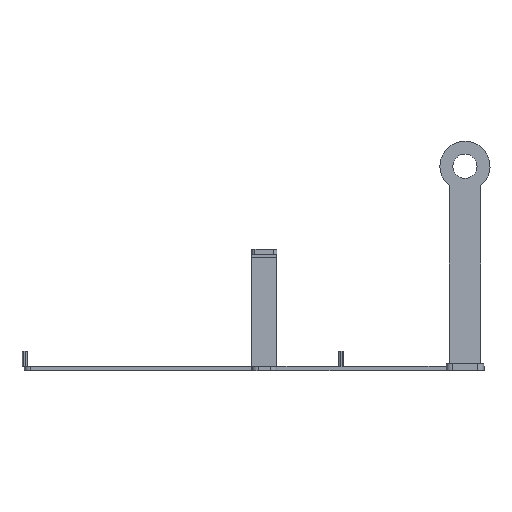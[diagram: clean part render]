
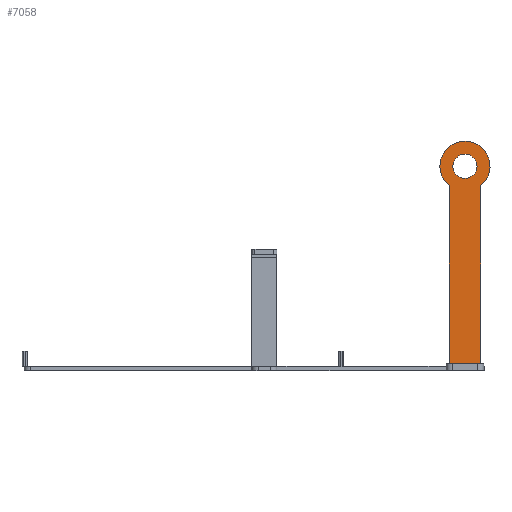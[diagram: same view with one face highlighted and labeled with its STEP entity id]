
A CAD part, front view. The second image highlights one B-rep face of the part: STEP entity #7058.
In plain terms, the highlighted planar face has unit normal (0, -1, 0).
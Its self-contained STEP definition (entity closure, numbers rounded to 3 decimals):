
#2878 = PLANE('',#2879);
#2879 = AXIS2_PLACEMENT_3D('',#2880,#2881,#2882);
#2880 = CARTESIAN_POINT('',(90.,0.,3.2));
#2881 = DIRECTION('',(0.,0.,1.));
#2882 = DIRECTION('',(1.,0.,-0.));
#5758 = VERTEX_POINT('',#5759);
#5759 = CARTESIAN_POINT('',(85.,-40.8,3.2));
#5775 = PLANE('',#5776);
#5776 = AXIS2_PLACEMENT_3D('',#5777,#5778,#5779);
#5777 = CARTESIAN_POINT('',(85.,-40.8,3.2));
#5778 = DIRECTION('',(1.,0.,-0.));
#5779 = DIRECTION('',(0.,0.,1.));
#5816 = VERTEX_POINT('',#5817);
#5817 = CARTESIAN_POINT('',(95.,-40.8,3.2));
#5831 = PLANE('',#5832);
#5832 = AXIS2_PLACEMENT_3D('',#5833,#5834,#5835);
#5833 = CARTESIAN_POINT('',(95.,-40.8,3.2));
#5834 = DIRECTION('',(1.,0.,-0.));
#5835 = DIRECTION('',(0.,0.,1.));
#5843 = EDGE_CURVE('',#5758,#5816,#5844,.T.);
#5844 = SURFACE_CURVE('',#5845,(#5849,#5856),.PCURVE_S1.);
#5845 = LINE('',#5846,#5847);
#5846 = CARTESIAN_POINT('',(85.,-40.8,3.2));
#5847 = VECTOR('',#5848,1.);
#5848 = DIRECTION('',(1.,0.,-0.));
#5849 = PCURVE('',#2878,#5850);
#5850 = DEFINITIONAL_REPRESENTATION('',(#5851),#5855);
#5851 = LINE('',#5852,#5853);
#5852 = CARTESIAN_POINT('',(-5.,-40.8));
#5853 = VECTOR('',#5854,1.);
#5854 = DIRECTION('',(1.,0.));
#5855 = ( GEOMETRIC_REPRESENTATION_CONTEXT(2) 
PARAMETRIC_REPRESENTATION_CONTEXT() REPRESENTATION_CONTEXT('2D SPACE',''
  ) );
#5856 = PCURVE('',#5857,#5862);
#5857 = PLANE('',#5858);
#5858 = AXIS2_PLACEMENT_3D('',#5859,#5860,#5861);
#5859 = CARTESIAN_POINT('',(85.,-40.8,3.2));
#5860 = DIRECTION('',(-0.,1.,0.));
#5861 = DIRECTION('',(0.,0.,1.));
#5862 = DEFINITIONAL_REPRESENTATION('',(#5863),#5867);
#5863 = LINE('',#5864,#5865);
#5864 = CARTESIAN_POINT('',(0.,0.));
#5865 = VECTOR('',#5866,1.);
#5866 = DIRECTION('',(0.,1.));
#5867 = ( GEOMETRIC_REPRESENTATION_CONTEXT(2) 
PARAMETRIC_REPRESENTATION_CONTEXT() REPRESENTATION_CONTEXT('2D SPACE',''
  ) );
#6903 = EDGE_CURVE('',#5758,#6904,#6906,.T.);
#6904 = VERTEX_POINT('',#6905);
#6905 = CARTESIAN_POINT('',(85.,-40.8,59.755));
#6906 = SURFACE_CURVE('',#6907,(#6911,#6918),.PCURVE_S1.);
#6907 = LINE('',#6908,#6909);
#6908 = CARTESIAN_POINT('',(85.,-40.8,3.2));
#6909 = VECTOR('',#6910,1.);
#6910 = DIRECTION('',(0.,0.,1.));
#6911 = PCURVE('',#5775,#6912);
#6912 = DEFINITIONAL_REPRESENTATION('',(#6913),#6917);
#6913 = LINE('',#6914,#6915);
#6914 = CARTESIAN_POINT('',(0.,0.));
#6915 = VECTOR('',#6916,1.);
#6916 = DIRECTION('',(1.,0.));
#6917 = ( GEOMETRIC_REPRESENTATION_CONTEXT(2) 
PARAMETRIC_REPRESENTATION_CONTEXT() REPRESENTATION_CONTEXT('2D SPACE',''
  ) );
#6918 = PCURVE('',#5857,#6919);
#6919 = DEFINITIONAL_REPRESENTATION('',(#6920),#6924);
#6920 = LINE('',#6921,#6922);
#6921 = CARTESIAN_POINT('',(0.,0.));
#6922 = VECTOR('',#6923,1.);
#6923 = DIRECTION('',(1.,0.));
#6924 = ( GEOMETRIC_REPRESENTATION_CONTEXT(2) 
PARAMETRIC_REPRESENTATION_CONTEXT() REPRESENTATION_CONTEXT('2D SPACE',''
  ) );
#6963 = CYLINDRICAL_SURFACE('',#6964,8.);
#6964 = AXIS2_PLACEMENT_3D('',#6965,#6966,#6967);
#6965 = CARTESIAN_POINT('',(90.,-38.6,66.));
#6966 = DIRECTION('',(0.,1.,0.));
#6967 = DIRECTION('',(1.,0.,0.));
#7047 = CYLINDRICAL_SURFACE('',#7048,3.85);
#7048 = AXIS2_PLACEMENT_3D('',#7049,#7050,#7051);
#7049 = CARTESIAN_POINT('',(90.,-37.7,66.));
#7050 = DIRECTION('',(0.,1.,0.));
#7051 = DIRECTION('',(1.,0.,0.));
#7058 = ADVANCED_FACE('',(#7059,#7112),#5857,.F.);
#7059 = FACE_BOUND('',#7060,.F.);
#7060 = EDGE_LOOP('',(#7061,#7084,#7085,#7086));
#7061 = ORIENTED_EDGE('',*,*,#7062,.F.);
#7062 = EDGE_CURVE('',#5816,#7063,#7065,.T.);
#7063 = VERTEX_POINT('',#7064);
#7064 = CARTESIAN_POINT('',(95.,-40.8,59.755));
#7065 = SURFACE_CURVE('',#7066,(#7070,#7077),.PCURVE_S1.);
#7066 = LINE('',#7067,#7068);
#7067 = CARTESIAN_POINT('',(95.,-40.8,3.2));
#7068 = VECTOR('',#7069,1.);
#7069 = DIRECTION('',(0.,0.,1.));
#7070 = PCURVE('',#5857,#7071);
#7071 = DEFINITIONAL_REPRESENTATION('',(#7072),#7076);
#7072 = LINE('',#7073,#7074);
#7073 = CARTESIAN_POINT('',(0.,10.));
#7074 = VECTOR('',#7075,1.);
#7075 = DIRECTION('',(1.,0.));
#7076 = ( GEOMETRIC_REPRESENTATION_CONTEXT(2) 
PARAMETRIC_REPRESENTATION_CONTEXT() REPRESENTATION_CONTEXT('2D SPACE',''
  ) );
#7077 = PCURVE('',#5831,#7078);
#7078 = DEFINITIONAL_REPRESENTATION('',(#7079),#7083);
#7079 = LINE('',#7080,#7081);
#7080 = CARTESIAN_POINT('',(0.,0.));
#7081 = VECTOR('',#7082,1.);
#7082 = DIRECTION('',(1.,0.));
#7083 = ( GEOMETRIC_REPRESENTATION_CONTEXT(2) 
PARAMETRIC_REPRESENTATION_CONTEXT() REPRESENTATION_CONTEXT('2D SPACE',''
  ) );
#7084 = ORIENTED_EDGE('',*,*,#5843,.F.);
#7085 = ORIENTED_EDGE('',*,*,#6903,.T.);
#7086 = ORIENTED_EDGE('',*,*,#7087,.F.);
#7087 = EDGE_CURVE('',#7063,#6904,#7088,.T.);
#7088 = SURFACE_CURVE('',#7089,(#7094,#7105),.PCURVE_S1.);
#7089 = CIRCLE('',#7090,8.);
#7090 = AXIS2_PLACEMENT_3D('',#7091,#7092,#7093);
#7091 = CARTESIAN_POINT('',(90.,-40.8,66.));
#7092 = DIRECTION('',(0.,-1.,0.));
#7093 = DIRECTION('',(0.625,0.,-0.781));
#7094 = PCURVE('',#5857,#7095);
#7095 = DEFINITIONAL_REPRESENTATION('',(#7096),#7104);
#7096 = ( BOUNDED_CURVE() B_SPLINE_CURVE(2,(#7097,#7098,#7099,#7100,
#7101,#7102,#7103),.UNSPECIFIED.,.T.,.F.) B_SPLINE_CURVE_WITH_KNOTS((1,2
    ,2,2,2,1),(-2.094,0.,2.094,4.189,
6.283,8.378),.UNSPECIFIED.) CURVE() 
GEOMETRIC_REPRESENTATION_ITEM() RATIONAL_B_SPLINE_CURVE((1.,0.5,1.,0.5,
1.,0.5,1.)) REPRESENTATION_ITEM('') );
#7097 = CARTESIAN_POINT('',(56.555,10.));
#7098 = CARTESIAN_POINT('',(65.215,20.817));
#7099 = CARTESIAN_POINT('',(70.253,7.908));
#7100 = CARTESIAN_POINT('',(75.29,-5.));
#7101 = CARTESIAN_POINT('',(61.592,-2.908));
#7102 = CARTESIAN_POINT('',(47.895,-0.817));
#7103 = CARTESIAN_POINT('',(56.555,10.));
#7104 = ( GEOMETRIC_REPRESENTATION_CONTEXT(2) 
PARAMETRIC_REPRESENTATION_CONTEXT() REPRESENTATION_CONTEXT('2D SPACE',''
  ) );
#7105 = PCURVE('',#6963,#7106);
#7106 = DEFINITIONAL_REPRESENTATION('',(#7107),#7111);
#7107 = LINE('',#7108,#7109);
#7108 = CARTESIAN_POINT('',(-5.388,-2.2));
#7109 = VECTOR('',#7110,1.);
#7110 = DIRECTION('',(-1.,0.));
#7111 = ( GEOMETRIC_REPRESENTATION_CONTEXT(2) 
PARAMETRIC_REPRESENTATION_CONTEXT() REPRESENTATION_CONTEXT('2D SPACE',''
  ) );
#7112 = FACE_BOUND('',#7113,.F.);
#7113 = EDGE_LOOP('',(#7114));
#7114 = ORIENTED_EDGE('',*,*,#7115,.F.);
#7115 = EDGE_CURVE('',#7116,#7116,#7118,.T.);
#7116 = VERTEX_POINT('',#7117);
#7117 = CARTESIAN_POINT('',(93.85,-40.8,66.));
#7118 = SURFACE_CURVE('',#7119,(#7124,#7131),.PCURVE_S1.);
#7119 = CIRCLE('',#7120,3.85);
#7120 = AXIS2_PLACEMENT_3D('',#7121,#7122,#7123);
#7121 = CARTESIAN_POINT('',(90.,-40.8,66.));
#7122 = DIRECTION('',(0.,1.,0.));
#7123 = DIRECTION('',(1.,0.,0.));
#7124 = PCURVE('',#5857,#7125);
#7125 = DEFINITIONAL_REPRESENTATION('',(#7126),#7130);
#7126 = CIRCLE('',#7127,3.85);
#7127 = AXIS2_PLACEMENT_2D('',#7128,#7129);
#7128 = CARTESIAN_POINT('',(62.8,5.));
#7129 = DIRECTION('',(0.,1.));
#7130 = ( GEOMETRIC_REPRESENTATION_CONTEXT(2) 
PARAMETRIC_REPRESENTATION_CONTEXT() REPRESENTATION_CONTEXT('2D SPACE',''
  ) );
#7131 = PCURVE('',#7047,#7132);
#7132 = DEFINITIONAL_REPRESENTATION('',(#7133),#7137);
#7133 = LINE('',#7134,#7135);
#7134 = CARTESIAN_POINT('',(-6.283,-3.1));
#7135 = VECTOR('',#7136,1.);
#7136 = DIRECTION('',(1.,-0.));
#7137 = ( GEOMETRIC_REPRESENTATION_CONTEXT(2) 
PARAMETRIC_REPRESENTATION_CONTEXT() REPRESENTATION_CONTEXT('2D SPACE',''
  ) );
